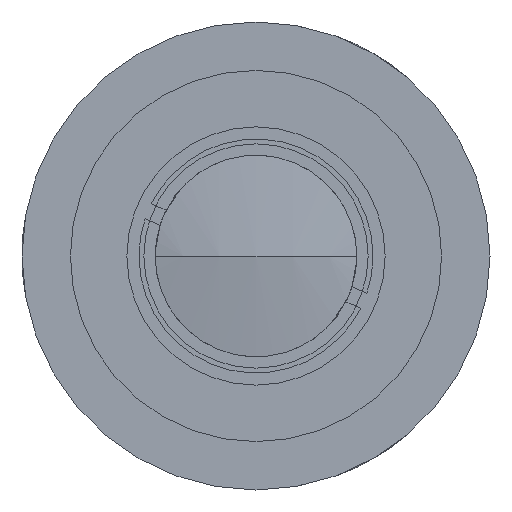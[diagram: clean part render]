
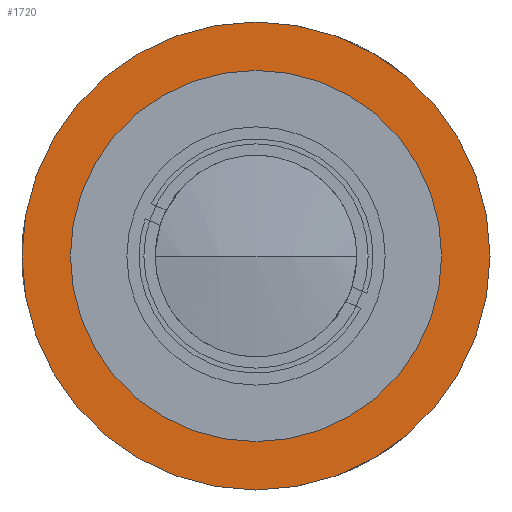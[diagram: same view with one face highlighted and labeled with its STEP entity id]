
A CAD part, left-side view. The second image highlights one B-rep face of the part: STEP entity #1720.
In plain terms, the highlighted planar face has unit normal (-1, 0, 0).
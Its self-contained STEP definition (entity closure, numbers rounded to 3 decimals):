
#7 = DIRECTION ( 'NONE',  ( 0., 0., -1. ) ) ;
#54 = CARTESIAN_POINT ( 'NONE',  ( 81.05, 0., 0. ) ) ;
#61 = DIRECTION ( 'NONE',  ( 0., 0., 1. ) ) ;
#119 = DIRECTION ( 'NONE',  ( 0., 0., 1. ) ) ;
#133 = VERTEX_POINT ( 'NONE', #648 ) ;
#160 = AXIS2_PLACEMENT_3D ( 'NONE', #1700, #874, #61 ) ;
#194 = CARTESIAN_POINT ( 'NONE',  ( 81.05, 0., -14.5 ) ) ;
#198 = DIRECTION ( 'NONE',  ( 0., 0., 1. ) ) ;
#252 = CARTESIAN_POINT ( 'NONE',  ( 81.05, 0., 0. ) ) ;
#393 = VERTEX_POINT ( 'NONE', #1011 ) ;
#544 = CARTESIAN_POINT ( 'NONE',  ( 81.05, 11.5, 0. ) ) ;
#648 = CARTESIAN_POINT ( 'NONE',  ( 81.05, 0., 14.5 ) ) ;
#713 = EDGE_CURVE ( 'NONE', #1305, #393, #1182, .T. ) ;
#737 = DIRECTION ( 'NONE',  ( -1., 0., 0. ) ) ;
#783 = CIRCLE ( 'NONE', #1744, 14.5 ) ;
#817 = DIRECTION ( 'NONE',  ( 1., 0., 0. ) ) ;
#874 = DIRECTION ( 'NONE',  ( -1., 0., 0. ) ) ;
#928 = DIRECTION ( 'NONE',  ( -1., 0., 0. ) ) ;
#1004 = DIRECTION ( 'NONE',  ( -1., 0., 0. ) ) ;
#1011 = CARTESIAN_POINT ( 'NONE',  ( 81.05, 0., 11.5 ) ) ;
#1029 = EDGE_CURVE ( 'NONE', #1593, #133, #783, .T. ) ;
#1048 = EDGE_CURVE ( 'NONE', #393, #1305, #1163, .T. ) ;
#1058 = EDGE_LOOP ( 'NONE', ( #1555, #1570 ) ) ;
#1088 = PLANE ( 'NONE',  #1091 ) ;
#1091 = AXIS2_PLACEMENT_3D ( 'NONE', #544, #817, #7 ) ;
#1163 = CIRCLE ( 'NONE', #160, 11.5 ) ;
#1182 = CIRCLE ( 'NONE', #1505, 11.5 ) ;
#1240 = FACE_BOUND ( 'NONE', #1748, .T. ) ;
#1284 = FACE_OUTER_BOUND ( 'NONE', #1058, .T. ) ;
#1305 = VERTEX_POINT ( 'NONE', #1605 ) ;
#1330 = EDGE_CURVE ( 'NONE', #133, #1593, #1503, .T. ) ;
#1503 = CIRCLE ( 'NONE', #1716, 14.5 ) ;
#1505 = AXIS2_PLACEMENT_3D ( 'NONE', #1575, #737, #1706 ) ;
#1538 = ORIENTED_EDGE ( 'NONE', *, *, #1048, .F. ) ;
#1549 = ORIENTED_EDGE ( 'NONE', *, *, #713, .F. ) ;
#1555 = ORIENTED_EDGE ( 'NONE', *, *, #1330, .T. ) ;
#1570 = ORIENTED_EDGE ( 'NONE', *, *, #1029, .T. ) ;
#1575 = CARTESIAN_POINT ( 'NONE',  ( 81.05, 0., 0. ) ) ;
#1593 = VERTEX_POINT ( 'NONE', #194 ) ;
#1605 = CARTESIAN_POINT ( 'NONE',  ( 81.05, 0., -11.5 ) ) ;
#1700 = CARTESIAN_POINT ( 'NONE',  ( 81.05, 0., 0. ) ) ;
#1706 = DIRECTION ( 'NONE',  ( 0., 0., 1. ) ) ;
#1716 = AXIS2_PLACEMENT_3D ( 'NONE', #252, #928, #119 ) ;
#1720 = ADVANCED_FACE ( 'NONE', ( #1240, #1284 ), #1088, .F. ) ;
#1744 = AXIS2_PLACEMENT_3D ( 'NONE', #54, #1004, #198 ) ;
#1748 = EDGE_LOOP ( 'NONE', ( #1538, #1549 ) ) ;
